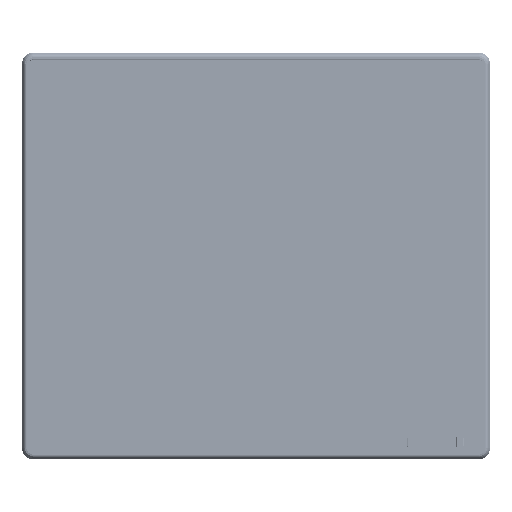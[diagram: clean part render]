
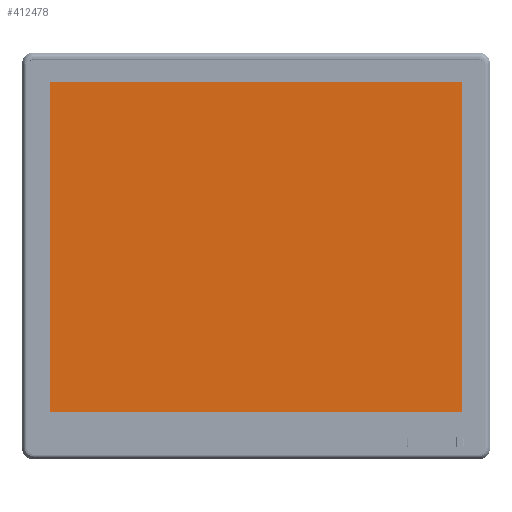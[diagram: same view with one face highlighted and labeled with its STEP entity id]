
A CAD part, top view. The second image highlights one B-rep face of the part: STEP entity #412478.
In plain terms, the highlighted planar face has unit normal (0, 0, 1).
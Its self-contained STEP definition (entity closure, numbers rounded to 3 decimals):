
#5033 = AXIS2_PLACEMENT_3D ( 'NONE', #684767, #300953, #749186 ) ;
#5199 = ORIENTED_EDGE ( 'NONE', *, *, #308936, .F. ) ;
#18926 = DIRECTION ( 'NONE',  ( 0., -1., 0. ) ) ;
#34887 = CARTESIAN_POINT ( 'NONE',  ( 148.464, -130.925, 439.79 ) ) ;
#37080 = DIRECTION ( 'NONE',  ( 0., 0., 1. ) ) ;
#40637 = EDGE_CURVE ( 'NONE', #758237, #799896, #743337, .T. ) ;
#43922 = VECTOR ( 'NONE', #728111, 1000. ) ;
#71773 = EDGE_LOOP ( 'NONE', ( #5199, #222677 ) ) ;
#83670 = CARTESIAN_POINT ( 'NONE',  ( -231.536, 174.155, 439.79 ) ) ;
#87465 = EDGE_LOOP ( 'NONE', ( #134675, #90704, #529599, #737418 ) ) ;
#90704 = ORIENTED_EDGE ( 'NONE', *, *, #806805, .T. ) ;
#99878 = VERTEX_POINT ( 'NONE', #641216 ) ;
#118191 = EDGE_CURVE ( 'NONE', #799896, #438988, #534381, .T. ) ;
#134675 = ORIENTED_EDGE ( 'NONE', *, *, #318499, .T. ) ;
#137415 = VERTEX_POINT ( 'NONE', #606944 ) ;
#167873 = CARTESIAN_POINT ( 'NONE',  ( 148.464, 174.155, 439.79 ) ) ;
#216933 = CARTESIAN_POINT ( 'NONE',  ( -231.536, -130.925, 439.79 ) ) ;
#222677 = ORIENTED_EDGE ( 'NONE', *, *, #517964, .F. ) ;
#300953 = DIRECTION ( 'NONE',  ( 0., 0., 1. ) ) ;
#308936 = EDGE_CURVE ( 'NONE', #822030, #99878, #660441, .T. ) ;
#318499 = EDGE_CURVE ( 'NONE', #438988, #137415, #555534, .T. ) ;
#364031 = VECTOR ( 'NONE', #764432, 1000. ) ;
#403023 = DIRECTION ( 'NONE',  ( 0., 0., 1. ) ) ;
#412478 = ADVANCED_FACE ( 'NONE', ( #599741, #429429 ), #746450, .T. ) ;
#421228 = CARTESIAN_POINT ( 'NONE',  ( -41.536, 21.615, 439.79 ) ) ;
#429429 = FACE_BOUND ( 'NONE', #71773, .T. ) ;
#438988 = VERTEX_POINT ( 'NONE', #535265 ) ;
#462766 = CARTESIAN_POINT ( 'NONE',  ( -41.536, 22.115, 439.79 ) ) ;
#480411 = VECTOR ( 'NONE', #600831, 1000. ) ;
#485705 = DIRECTION ( 'NONE',  ( 0., -1., 0. ) ) ;
#517964 = EDGE_CURVE ( 'NONE', #99878, #822030, #627178, .T. ) ;
#529599 = ORIENTED_EDGE ( 'NONE', *, *, #40637, .T. ) ;
#534381 = LINE ( 'NONE', #632622, #364031 ) ;
#535265 = CARTESIAN_POINT ( 'NONE',  ( -231.536, 174.155, 439.79 ) ) ;
#554301 = AXIS2_PLACEMENT_3D ( 'NONE', #786759, #403023, #18926 ) ;
#555534 = LINE ( 'NONE', #83670, #43922 ) ;
#599741 = FACE_OUTER_BOUND ( 'NONE', #87465, .T. ) ;
#600831 = DIRECTION ( 'NONE',  ( 1., 0., 0. ) ) ;
#606944 = CARTESIAN_POINT ( 'NONE',  ( -231.536, -130.925, 439.79 ) ) ;
#610056 = AXIS2_PLACEMENT_3D ( 'NONE', #421228, #37080, #485705 ) ;
#616201 = DIRECTION ( 'NONE',  ( 0., 1., 0. ) ) ;
#627178 = CIRCLE ( 'NONE', #554301, 0.5 ) ;
#632622 = CARTESIAN_POINT ( 'NONE',  ( -231.536, 174.155, 439.79 ) ) ;
#640400 = CARTESIAN_POINT ( 'NONE',  ( 148.464, 174.155, 439.79 ) ) ;
#641216 = CARTESIAN_POINT ( 'NONE',  ( -41.536, 21.115, 439.79 ) ) ;
#650844 = LINE ( 'NONE', #216933, #480411 ) ;
#660441 = CIRCLE ( 'NONE', #610056, 0.5 ) ;
#684767 = CARTESIAN_POINT ( 'NONE',  ( -231.536, -130.925, 439.79 ) ) ;
#723188 = VECTOR ( 'NONE', #616201, 1000. ) ;
#728111 = DIRECTION ( 'NONE',  ( 0., -1., 0. ) ) ;
#737418 = ORIENTED_EDGE ( 'NONE', *, *, #118191, .T. ) ;
#743337 = LINE ( 'NONE', #167873, #723188 ) ;
#746450 = PLANE ( 'NONE',  #5033 ) ;
#749186 = DIRECTION ( 'NONE',  ( 1., 0., 0. ) ) ;
#758237 = VERTEX_POINT ( 'NONE', #34887 ) ;
#764432 = DIRECTION ( 'NONE',  ( -1., 0., 0. ) ) ;
#786759 = CARTESIAN_POINT ( 'NONE',  ( -41.536, 21.615, 439.79 ) ) ;
#799896 = VERTEX_POINT ( 'NONE', #640400 ) ;
#806805 = EDGE_CURVE ( 'NONE', #137415, #758237, #650844, .T. ) ;
#822030 = VERTEX_POINT ( 'NONE', #462766 ) ;
